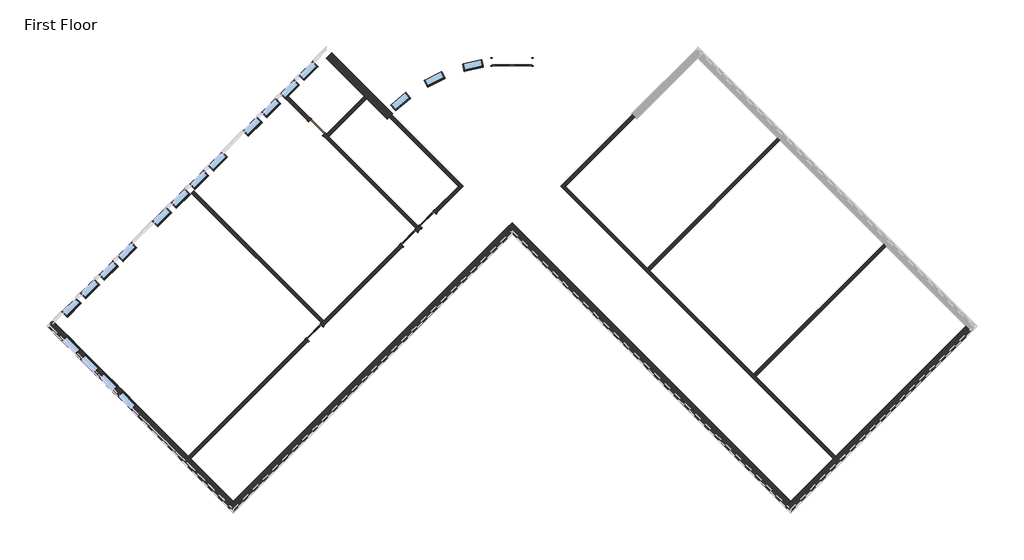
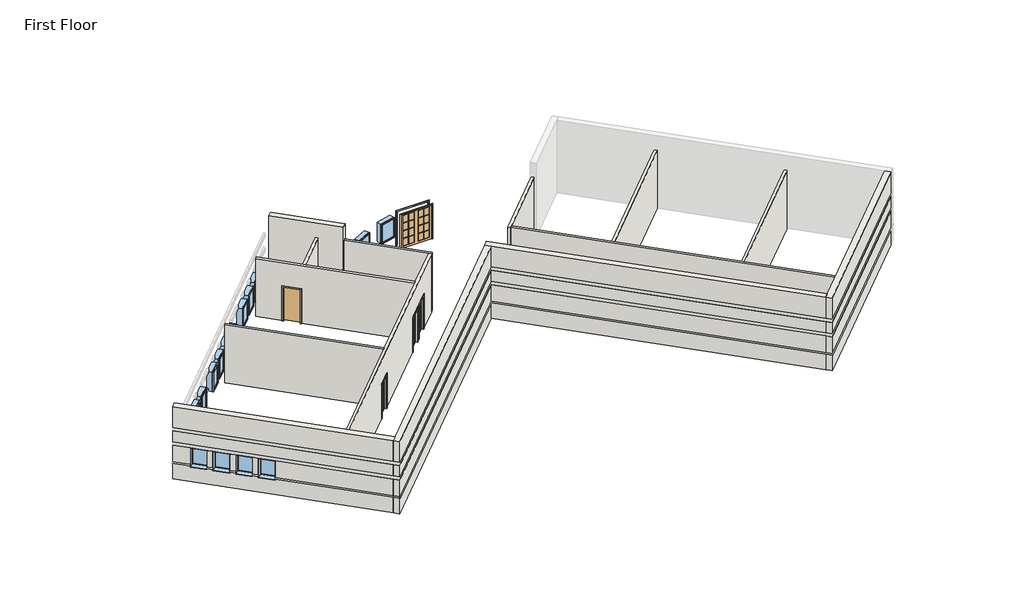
# One storey, part 1 of 2: 19 windows, 14 walls, 5 doors.
"""IFC4 building model written with IfcOpenShell, lengths in millimetres."""

from ifc_helpers import new_model, si_unit, frame, origin, origin_with_axes, place, context, project, spatial, polyline, circle_curve, outline, extrude, faceted_brep, transform, mapped, element, save
from ifc_brep_helpers import plane_surface, cylinder_surface, revolved_surface, advanced_brep
from components import door_0a477ef8, door_f9494b7c, door_b81abb0e, door_5f5b55da, window_15c49d37, window_0e2fc6ce

model = new_model("IFC4")

# Units and contexts
model_context = context("Model", 3, world=origin())
ifc_project = project(units=[si_unit("LENGTHUNIT", "METRE", prefix="MILLI")], contexts=[model_context])

# Site, building, storey
site = spatial("IfcSite", under=ifc_project)
building = spatial("IfcBuilding", under=site)
storey = spatial("IfcBuildingStorey", under=building, Name="First Floor", Elevation=0.0)

# Doors
placement = place(None, origin())
door_shape = door_0a477ef8(model_context)
element("IfcDoor", 1, ObjectType="Double-Glass 2 : 72\" x 84\"", at=placement, inside=storey, context=model_context, shape_type="MappedRepresentation", body=[
    mapped(door_shape, transform((-2868.7603243, 10905.5717204, 0.0), x_axis=(-0.9999999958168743, -9.146721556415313e-05, 0.0), y_axis=(9.146721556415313e-05, -0.9999999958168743, 0.0), z_axis=(0.0, 0.0, 1.0))),
])
door_2_shape = door_f9494b7c(model_context)
element("IfcDoor", 2, ObjectType="Single-Flush : 36\" x 84\"", at=placement, inside=storey, context=model_context, shape_type="MappedRepresentation", body=[
    mapped(door_2_shape, transform((-11920.1265343, 7875.9588464, 0.0), x_axis=(0.7071067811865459, -0.7071067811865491, 0.0), y_axis=(0.7071067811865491, 0.7071067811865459, 0.0), z_axis=(0.0, 0.0, 1.0))),
])
door_3_shape = door_b81abb0e(model_context)
element("IfcDoor", 3, ObjectType="Single-Glass 1 : 36\" x 84\"", at=placement, inside=storey, context=model_context, shape_type="MappedRepresentation", body=[
    mapped(door_3_shape, transform((-12027.7718255, -1647.4849877, 0.0), x_axis=(0.7071067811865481, 0.7071067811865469, 0.0), y_axis=(-0.7071067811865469, 0.7071067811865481, 0.0), z_axis=(0.0, 0.0, 1.0))),
])
element("IfcDoor", 4, ObjectType="Single-Glass 1 : 36\" x 84\"", at=placement, inside=storey, context=model_context, shape_type="MappedRepresentation", body=[
    mapped(door_3_shape, transform((-7643.2795567, 2737.0072811, 0.0), x_axis=(0.7071067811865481, 0.7071067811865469, 0.0), y_axis=(-0.7071067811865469, 0.7071067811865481, 0.0), z_axis=(0.0, 0.0, 1.0))),
])
door_4_shape = door_5f5b55da(model_context)
element("IfcDoor", 5, ObjectType="Single-Glass 1 : 36\" x 84\"", at=placement, inside=storey, context=model_context, shape_type="MappedRepresentation", body=[
    mapped(door_4_shape, transform((-6781.1749691, 3599.1118687, 0.0), x_axis=(-0.7071067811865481, -0.7071067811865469, 0.0), y_axis=(0.7071067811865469, -0.7071067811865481, 0.0), z_axis=(0.0, 0.0, 1.0))),
])

# Walls
element("IfcWall", 6, ObjectType="Exterior - Split Face and CMU on Mtl. Stud", at=placement, inside=storey, context=model_context, shape_type="Brep", body=[
    faceted_brep([(18186.1821115, -1357.9895101, 4572.0), (10063.54045, -9480.6311716, 4572.0), (9814.3383427, -9729.833279, 4572.0), (10063.54045, -9979.0353863, 4572.0), (18435.3842189, -1607.1916175, 4572.0), (18186.1821115, -1357.9895101, 0.0), (12149.2049342, -7394.9666875, 0.0), (12039.1967967, -7504.974825, 0.0), (10063.54045, -9480.6311716, 0.0), (9814.3383427, -9729.833279, 0.0), (9814.3383427, -9729.833279, 1016.0), (9879.4451996, -9664.7264221, 1016.0), (9879.4451996, -9664.7264221, 1085.85), (9814.3383427, -9729.833279, 1085.85), (9814.3383427, -9729.833279, 2133.6), (9879.4451996, -9664.7264221, 2133.6), (9879.4451996, -9664.7264221, 2336.8), (9814.3383427, -9729.833279, 2336.8), (9814.3383427, -9729.833279, 3048.0), (9879.4451996, -9664.7264221, 3048.0), (9879.4451996, -9664.7264221, 3251.2), (9814.3383427, -9729.833279, 3251.2), (10063.54045, -9979.0353863, 3251.2), (18435.3842189, -1607.1916175, 3251.2), (10063.54045, -9979.0353863, 0.0), (18435.3842189, -1607.1916175, 0.0), (18435.3842189, -1607.1916175, 1016.0), (10063.54045, -9979.0353863, 1016.0), (10063.54045, -9979.0353863, 1085.85), (18435.3842189, -1607.1916175, 1085.85), (18435.3842189, -1607.1916175, 2133.6), (10063.54045, -9979.0353863, 2133.6), (10063.54045, -9979.0353863, 2336.8), (18435.3842189, -1607.1916175, 2336.8), (18435.3842189, -1607.1916175, 3048.0), (10063.54045, -9979.0353863, 3048.0), (18370.277362, -1542.0847606, 0.0), (9998.4335932, -9913.9285294, 0.0), (18370.277362, -1542.0847606, 3251.2), (18370.277362, -1542.0847606, 3048.0), (18370.277362, -1542.0847606, 2336.8), (18370.277362, -1542.0847606, 2133.6), (18370.277362, -1542.0847606, 1085.85), (18370.277362, -1542.0847606, 1016.0), (10063.54045, -9848.8216726, 1085.85), (10063.54045, -9848.8216726, 1016.0), (10063.54045, -9848.8216726, 2133.6), (10063.54045, -9848.8216726, 2336.8), (10063.54045, -9848.8216726, 3048.0), (10063.54045, -9848.8216726, 3251.2)], [[[0, 1, 2, 3, 4]], [[5, 6, 7, 8, 9, 10, 11, 12, 13, 14, 15, 16, 17, 18, 19, 20, 21, 2, 1, 0]], [[4, 3, 22, 23]], [[24, 25, 26, 27]], [[28, 29, 30, 31]], [[32, 33, 34, 35]], [[9, 8, 7, 6, 5, 36, 37]], [[5, 0, 4, 23, 38, 39, 34, 33, 40, 41, 30, 29, 42, 43, 26, 25, 36]], [[25, 24, 37, 36]], [[3, 2, 21, 22]], [[9, 37, 24, 27, 10]], [[13, 28, 31, 14]], [[17, 32, 35, 18]], [[12, 44, 42, 29, 28, 13]], [[43, 45, 11, 10, 27, 26]], [[44, 45, 43, 42]], [[45, 44, 12, 11]], [[41, 46, 15, 14, 31, 30]], [[16, 47, 40, 33, 32, 17]], [[47, 46, 41, 40]], [[46, 47, 16, 15]], [[39, 48, 19, 18, 35, 34]], [[20, 49, 38, 23, 22, 21]], [[49, 48, 39, 38]], [[48, 49, 20, 19]]]),
])
element("IfcWall", 7, ObjectType="Exterior - Split Face and CMU on Mtl. Stud", at=placement, inside=storey, context=model_context, shape_type="Brep", body=[
    faceted_brep([(10063.54045, -9480.6311716, 0.0), (-2868.0283643, 3450.9376427, 0.0), (-2868.0283643, 3450.9376427, 4572.0), (10063.54045, -9480.6311716, 4572.0), (9814.3383427, -9729.833279, 4572.0), (-2868.0283643, 2952.533428, 4572.0), (-3117.2304717, 3201.7355354, 4572.0), (-3117.2304717, 3201.7355354, 0.0), (-2868.0283643, 2952.533428, 0.0), (9814.3383427, -9729.833279, 0.0), (9814.3383427, -9729.833279, 1016.0), (-2868.0283643, 2952.533428, 1016.0), (-2933.1352212, 3017.6402849, 1016.0), (-2933.1352212, 3017.6402849, 1085.85), (-2868.0283643, 2952.533428, 1085.85), (9814.3383427, -9729.833279, 1085.85), (9814.3383427, -9729.833279, 2133.6), (-2868.0283643, 2952.533428, 2133.6), (-2933.1352212, 3017.6402849, 2133.6), (-2933.1352212, 3017.6402849, 2336.8), (-2868.0283643, 2952.533428, 2336.8), (9814.3383427, -9729.833279, 2336.8), (9814.3383427, -9729.833279, 3048.0), (-2868.0283643, 2952.533428, 3048.0), (-2933.1352212, 3017.6402849, 3048.0), (-2933.1352212, 3017.6402849, 3251.2), (-2868.0283643, 2952.533428, 3251.2), (9814.3383427, -9729.833279, 3251.2), (-3052.1236148, 3266.8423923, 0.0), (9879.4451996, -9664.7264221, 3251.2), (9879.4451996, -9664.7264221, 3048.0), (9879.4451996, -9664.7264221, 2336.8), (9879.4451996, -9664.7264221, 2133.6), (9879.4451996, -9664.7264221, 1085.85), (9879.4451996, -9664.7264221, 1016.0), (9879.4451996, -9664.7264221, 0.0), (-2868.0283643, 3082.7471418, 1085.85), (-2868.0283643, 3082.7471418, 1016.0), (-2868.0283643, 3082.7471418, 2133.6), (-2868.0283643, 3082.7471418, 2336.8), (-2868.0283643, 3082.7471418, 3048.0), (-2868.0283643, 3082.7471418, 3251.2)], [[[0, 1, 2, 3]], [[4, 5, 6, 7, 8, 9, 10, 11, 12, 13, 14, 15, 16, 17, 18, 19, 20, 21, 22, 23, 24, 25, 26, 27]], [[3, 2, 6, 5, 4]], [[2, 1, 28, 7, 6]], [[0, 3, 4, 27, 29, 30, 22, 21, 31, 32, 16, 15, 33, 34, 10, 9, 35]], [[1, 0, 35, 28]], [[35, 9, 8, 7, 28]], [[13, 36, 33, 15, 14]], [[34, 37, 12, 11, 10]], [[36, 37, 34, 33]], [[37, 36, 13, 12]], [[32, 38, 18, 17, 16]], [[19, 39, 31, 21, 20]], [[39, 38, 32, 31]], [[38, 39, 19, 18]], [[30, 40, 24, 23, 22]], [[25, 41, 29, 27, 26]], [[41, 40, 30, 29]], [[40, 41, 25, 24]]]),
])
element("IfcWall", 8, ObjectType="Exterior - Split Face and CMU on Mtl. Stud", at=placement, inside=storey, context=model_context, shape_type="Brep", body=[
    faceted_brep([(-3117.2304717, 3201.7355354, 4572.0), (-15799.5971786, -9480.6311716, 4572.0), (-16048.799286, -9729.833279, 4572.0), (-15799.5971786, -9979.0353863, 4572.0), (-2868.0283643, 2952.533428, 4572.0), (-3117.2304717, 3201.7355354, 0.0), (-15799.5971786, -9480.6311716, 0.0), (-16048.799286, -9729.833279, 0.0), (-16048.799286, -9729.833279, 1016.0), (-15983.6924291, -9664.7264221, 1016.0), (-15983.6924291, -9664.7264221, 1085.85), (-16048.799286, -9729.833279, 1085.85), (-16048.799286, -9729.833279, 2133.6), (-15983.6924291, -9664.7264221, 2133.6), (-15983.6924291, -9664.7264221, 2336.8), (-16048.799286, -9729.833279, 2336.8), (-16048.799286, -9729.833279, 3048.0), (-15983.6924291, -9664.7264221, 3048.0), (-15983.6924291, -9664.7264221, 3251.2), (-16048.799286, -9729.833279, 3251.2), (-15799.5971786, -9979.0353863, 3251.2), (-2868.0283643, 2952.533428, 3251.2), (-15799.5971786, -9979.0353863, 0.0), (-2868.0283643, 2952.533428, 0.0), (-2868.0283643, 2952.533428, 1016.0), (-15799.5971786, -9979.0353863, 1016.0), (-15799.5971786, -9979.0353863, 1085.85), (-2868.0283643, 2952.533428, 1085.85), (-2868.0283643, 2952.533428, 2133.6), (-15799.5971786, -9979.0353863, 2133.6), (-15799.5971786, -9979.0353863, 2336.8), (-2868.0283643, 2952.533428, 2336.8), (-2868.0283643, 2952.533428, 3048.0), (-15799.5971786, -9979.0353863, 3048.0), (-2933.1352212, 3017.6402849, 0.0), (-15864.7040355, -9913.9285294, 0.0), (-2933.1352212, 3017.6402849, 3251.2), (-2933.1352212, 3017.6402849, 3048.0), (-2933.1352212, 3017.6402849, 2336.8), (-2933.1352212, 3017.6402849, 2133.6), (-2933.1352212, 3017.6402849, 1085.85), (-2933.1352212, 3017.6402849, 1016.0), (-15799.5971786, -9848.8216726, 1085.85), (-15799.5971786, -9848.8216726, 1016.0), (-15799.5971786, -9848.8216726, 2133.6), (-15799.5971786, -9848.8216726, 2336.8), (-15799.5971786, -9848.8216726, 3048.0), (-15799.5971786, -9848.8216726, 3251.2)], [[[0, 1, 2, 3, 4]], [[5, 6, 7, 8, 9, 10, 11, 12, 13, 14, 15, 16, 17, 18, 19, 2, 1, 0]], [[4, 3, 20, 21]], [[22, 23, 24, 25]], [[26, 27, 28, 29]], [[30, 31, 32, 33]], [[7, 6, 5, 34, 35]], [[5, 0, 4, 21, 36, 37, 32, 31, 38, 39, 28, 27, 40, 41, 24, 23, 34]], [[23, 22, 35, 34]], [[3, 2, 19, 20]], [[7, 35, 22, 25, 8]], [[11, 26, 29, 12]], [[15, 30, 33, 16]], [[10, 42, 40, 27, 26, 11]], [[41, 43, 9, 8, 25, 24]], [[42, 43, 41, 40]], [[43, 42, 10, 9]], [[39, 44, 13, 12, 29, 28]], [[14, 45, 38, 31, 30, 15]], [[45, 44, 39, 38]], [[44, 45, 14, 13]], [[37, 46, 17, 16, 33, 32]], [[18, 47, 36, 21, 20, 19]], [[47, 46, 37, 36]], [[46, 47, 18, 17]]]),
])
element("IfcWall", 9, ObjectType="Exterior - Split Face and CMU on Mtl. Stud", at=placement, inside=storey, context=model_context, shape_type="Brep", body=[
    faceted_brep([(-15799.5971786, -9480.6311716, 4572.0), (-23922.2388402, -1357.9895101, 4572.0), (-24171.4409475, -1108.7874027, 4572.0), (-24420.6430549, -1357.9895101, 4572.0), (-16048.799286, -9729.833279, 4572.0), (-15799.5971786, -9480.6311716, 0.0), (-17775.2535253, -7504.974825, 0.0), (-17885.2616628, -7394.9666875, 0.0), (-23922.2388402, -1357.9895101, 0.0), (-24171.4409475, -1108.7874027, 0.0), (-24171.4409475, -1108.7874027, 1016.0), (-24106.3340906, -1173.8942596, 1016.0), (-24106.3340906, -1173.8942596, 1085.85), (-24171.4409475, -1108.7874027, 1085.85), (-24171.4409475, -1108.7874027, 2133.6), (-24106.3340906, -1173.8942596, 2133.6), (-24106.3340906, -1173.8942596, 2336.8), (-24171.4409475, -1108.7874027, 2336.8), (-24171.4409475, -1108.7874027, 3048.0), (-24106.3340906, -1173.8942596, 3048.0), (-24106.3340906, -1173.8942596, 3251.2), (-24171.4409475, -1108.7874027, 3251.2), (-20921.7107637, -4358.5175865, 2133.6), (-20921.7107637, -4358.5175865, 914.4), (-20275.132323, -5005.0960273, 914.4), (-20275.132323, -5005.0960273, 2133.6), (-21783.8153513, -3496.4129989, 2133.6), (-21783.8153513, -3496.4129989, 914.4), (-21137.2369106, -4142.9914396, 914.4), (-21137.2369106, -4142.9914396, 2133.6), (-22645.9199389, -2634.3084113, 2133.6), (-22645.9199389, -2634.3084113, 914.4), (-21999.3414982, -3280.886852, 914.4), (-21999.3414982, -3280.886852, 2133.6), (-23508.0245266, -1772.2038237, 2133.6), (-23508.0245266, -1772.2038237, 914.4), (-22861.4460859, -2418.7822644, 914.4), (-22861.4460859, -2418.7822644, 2133.6), (-24420.6430549, -1357.9895101, 3251.2), (-16048.799286, -9729.833279, 3251.2), (-24420.6430549, -1357.9895101, 0.0), (-16048.799286, -9729.833279, 0.0), (-16048.799286, -9729.833279, 1016.0), (-20524.3344303, -5254.2981346, 1016.0), (-20524.3344303, -5254.2981346, 914.4), (-21170.9128711, -4607.7196939, 914.4), (-21170.9128711, -4607.7196939, 1016.0), (-21386.439018, -4392.193547, 1016.0), (-21386.439018, -4392.193547, 914.4), (-22033.0174587, -3745.6151063, 914.4), (-22033.0174587, -3745.6151063, 1016.0), (-22248.5436056, -3530.0889594, 1016.0), (-22248.5436056, -3530.0889594, 914.4), (-22895.1220463, -2883.5105187, 914.4), (-22895.1220463, -2883.5105187, 1016.0), (-23110.6481932, -2667.9843718, 1016.0), (-23110.6481932, -2667.9843718, 914.4), (-23757.2266339, -2021.405931, 914.4), (-23757.2266339, -2021.405931, 1016.0), (-24420.6430549, -1357.9895101, 1016.0), (-20524.3344303, -5254.2981346, 2133.6), (-20524.3344303, -5254.2981346, 1085.85), (-16048.799286, -9729.833279, 1085.85), (-16048.799286, -9729.833279, 2133.6), (-21170.9128711, -4607.7196939, 1085.85), (-21170.9128711, -4607.7196939, 2133.6), (-21386.439018, -4392.193547, 2133.6), (-21386.439018, -4392.193547, 1085.85), (-22033.0174587, -3745.6151063, 1085.85), (-22033.0174587, -3745.6151063, 2133.6), (-22248.5436056, -3530.0889594, 2133.6), (-22248.5436056, -3530.0889594, 1085.85), (-22895.1220463, -2883.5105187, 1085.85), (-22895.1220463, -2883.5105187, 2133.6), (-23110.6481932, -2667.9843718, 2133.6), (-23110.6481932, -2667.9843718, 1085.85), (-23757.2266339, -2021.405931, 1085.85), (-23757.2266339, -2021.405931, 2133.6), (-24420.6430549, -1357.9895101, 2133.6), (-24420.6430549, -1357.9895101, 1085.85), (-24420.6430549, -1357.9895101, 2336.8), (-16048.799286, -9729.833279, 2336.8), (-16048.799286, -9729.833279, 3048.0), (-24420.6430549, -1357.9895101, 3048.0), (-15983.6924291, -9664.7264221, 0.0), (-24355.536198, -1292.8826532, 0.0), (-15983.6924291, -9664.7264221, 3251.2), (-15983.6924291, -9664.7264221, 3048.0), (-15983.6924291, -9664.7264221, 2336.8), (-15983.6924291, -9664.7264221, 2133.6), (-15983.6924291, -9664.7264221, 1085.85), (-15983.6924291, -9664.7264221, 1016.0), (-21105.8060142, -4542.612837, 2133.6), (-21105.8060142, -4542.612837, 1085.85), (-21105.8060142, -4542.612837, 1016.0), (-20459.2275735, -5189.1912777, 1016.0), (-20459.2275735, -5189.1912777, 1085.85), (-20459.2275735, -5189.1912777, 2133.6), (-21967.9106018, -3680.5082494, 2133.6), (-21967.9106018, -3680.5082494, 1085.85), (-21967.9106018, -3680.5082494, 1016.0), (-21321.3321611, -4327.0866901, 1016.0), (-21321.3321611, -4327.0866901, 1085.85), (-21321.3321611, -4327.0866901, 2133.6), (-22830.0151894, -2818.4036618, 2133.6), (-22830.0151894, -2818.4036618, 1085.85), (-22830.0151894, -2818.4036618, 1016.0), (-22183.4367487, -3464.9821025, 1016.0), (-22183.4367487, -3464.9821025, 1085.85), (-22183.4367487, -3464.9821025, 2133.6), (-23692.119777, -1956.2990742, 2133.6), (-23692.119777, -1956.2990742, 1085.85), (-23692.119777, -1956.2990742, 1016.0), (-23045.5413363, -2602.8775149, 1016.0), (-23045.5413363, -2602.8775149, 1085.85), (-23045.5413363, -2602.8775149, 2133.6), (-24290.4293411, -1357.9895101, 1085.85), (-24290.4293411, -1357.9895101, 1016.0), (-24290.4293411, -1357.9895101, 2133.6), (-24290.4293411, -1357.9895101, 2336.8), (-24290.4293411, -1357.9895101, 3048.0), (-24290.4293411, -1357.9895101, 3251.2)], [[[0, 1, 2, 3, 4]], [[5, 6, 7, 8, 9, 10, 11, 12, 13, 14, 15, 16, 17, 18, 19, 20, 21, 2, 1, 0], [22, 23, 24, 25], [26, 27, 28, 29], [30, 31, 32, 33], [34, 35, 36, 37]], [[4, 3, 38, 39]], [[40, 41, 42, 43, 44, 45, 46, 47, 48, 49, 50, 51, 52, 53, 54, 55, 56, 57, 58, 59]], [[60, 61, 62, 63]], [[64, 65, 66, 67]], [[68, 69, 70, 71]], [[72, 73, 74, 75]], [[76, 77, 78, 79]], [[80, 81, 82, 83]], [[9, 8, 7, 6, 5, 84, 85]], [[5, 0, 4, 39, 86, 87, 82, 81, 88, 89, 63, 62, 90, 91, 42, 41, 84]], [[41, 40, 85, 84]], [[3, 2, 21, 38]], [[9, 85, 40, 59, 10]], [[13, 79, 78, 14]], [[17, 80, 83, 18]], [[23, 22, 92, 65, 64, 93, 94, 46, 45]], [[24, 23, 45, 44]], [[25, 24, 44, 43, 95, 96, 61, 60, 97]], [[22, 25, 97, 92]], [[27, 26, 98, 69, 68, 99, 100, 50, 49]], [[28, 27, 49, 48]], [[29, 28, 48, 47, 101, 102, 67, 66, 103]], [[26, 29, 103, 98]], [[31, 30, 104, 73, 72, 105, 106, 54, 53]], [[32, 31, 53, 52]], [[33, 32, 52, 51, 107, 108, 71, 70, 109]], [[30, 33, 109, 104]], [[35, 34, 110, 77, 76, 111, 112, 58, 57]], [[36, 35, 57, 56]], [[37, 36, 56, 55, 113, 114, 75, 74, 115]], [[34, 37, 115, 110]], [[96, 90, 62, 61]], [[91, 95, 43, 42]], [[90, 96, 95, 91]], [[102, 93, 64, 67]], [[94, 101, 47, 46]], [[93, 102, 101, 94]], [[108, 99, 68, 71]], [[100, 107, 51, 50]], [[99, 108, 107, 100]], [[114, 105, 72, 75]], [[106, 113, 55, 54]], [[105, 114, 113, 106]], [[116, 111, 76, 79, 13, 12]], [[112, 117, 11, 10, 59, 58]], [[111, 116, 117, 112]], [[117, 116, 12, 11]], [[92, 103, 66, 65]], [[98, 109, 70, 69]], [[110, 118, 15, 14, 78, 77]], [[104, 115, 74, 73]], [[89, 97, 60, 63]], [[16, 119, 88, 81, 80, 17]], [[119, 118, 110, 115, 104, 109, 98, 103, 92, 97, 89, 88]], [[118, 119, 16, 15]], [[87, 120, 19, 18, 83, 82]], [[20, 121, 86, 39, 38, 21]], [[121, 120, 87, 86]], [[120, 121, 20, 19]]]),
])
element("IfcWall", 10, ObjectType="Exterior - Split Face and CMU on Mtl. Stud", at=placement, inside=storey, context=model_context, shape_type="AdvancedBrep", body=[
    advanced_brep(
    [(-11489.0742405, 11075.1750895, 0.0), (-9728.9440408, 9315.0448898, 0.0), (-9618.9359033, 9205.0367523, 0.0), (-8658.0122729, 8244.1131219, 0.0), (-8658.0122729, 8244.1131219, 4572.0), (-11489.0742405, 11075.1750895, 4572.0), (-11239.8721332, 11324.3771969, 4572.0), (-8662.486224, 8746.9912878, 4572.0), (-8413.2817722, 8497.7868359, 4572.0), (-8413.2817722, 8497.7868359, 0.0), (-8662.486224, 8746.9912878, 0.0), (-11239.8721332, 11324.3771969, 0.0), (-11239.8721332, 11324.3771969, 1016.0), (-8662.486224, 8746.9912878, 1016.0), (-8597.3787742, 8681.8838379, 1016.0), (-8597.3787742, 8681.8838379, 1085.85), (-8662.486224, 8746.9912878, 1085.85), (-11239.8721332, 11324.3771969, 1085.85), (-11239.8721332, 11324.3771969, 2133.6), (-8662.486224, 8746.9912878, 2133.6), (-8597.3787742, 8681.8838379, 2133.6), (-8597.3787742, 8681.8838379, 2336.8), (-8662.486224, 8746.9912878, 2336.8), (-11239.8721332, 11324.3771969, 2336.8), (-11239.8721332, 11324.3771969, 3048.0), (-8662.486224, 8746.9912878, 3048.0), (-8597.3787742, 8681.8838379, 3048.0), (-8597.3787742, 8681.8838379, 3251.2), (-8662.486224, 8746.9912878, 3251.2), (-11239.8721332, 11324.3771969, 3251.2), (-8557.713594, 8350.8358404, 0.0), (-8478.2967797, 8432.5881297, 0.0), (-8449.0111375, 8462.1452813, 0.0), (-11304.9789901, 11259.27034, 3251.2), (-11304.9789901, 11259.27034, 3048.0), (-11304.9789901, 11259.27034, 2336.8), (-11304.9789901, 11259.27034, 2133.6), (-11304.9789901, 11259.27034, 1085.85), (-11304.9789901, 11259.27034, 1016.0), (-11304.9789901, 11259.27034, 0.0), (-8662.3967205, 8616.6880705, 1085.85), (-8662.3967205, 8616.6880705, 1016.0), (-8662.3967205, 8616.6880705, 2336.8), (-8662.3967205, 8616.6880705, 2133.6), (-8662.3967205, 8616.6880705, 3251.2), (-8662.3967205, 8616.6880705, 3048.0)],
    [
        (0, 1),
        (1, 2),
        (2, 3),
        (3, 4),
        (4, 5),
        (5, 0),
        (6, 7),
        (7, 8),
        (8, 9),
        (9, 10),
        (10, 11),
        (11, 12),
        (12, 13),
        (13, 14),
        (14, 15),
        (15, 16),
        (16, 17),
        (17, 18),
        (18, 19),
        (19, 20),
        (20, 21),
        (21, 22),
        (22, 23),
        (23, 24),
        (24, 25),
        (25, 26),
        (26, 27),
        (27, 28),
        (28, 29),
        (29, 6),
        (4, 8, circle_curve(frame((-2868.0283643, 2903.1420194, 4572.0), z_axis=(0.0, 0.0, -1.0), x_axis=(1.0, 0.0, 0.0)), 7877.175)),
        (6, 5),
        (3, 30, circle_curve(frame((-2868.0283643, 2903.1420194, 0.0), z_axis=(0.0, 0.0, -1.0), x_axis=(1.0, 0.0, 0.0)), 7877.175)),
        (30, 31, circle_curve(frame((-2868.0283643, 2903.1420194, 0.0), z_axis=(0.0, 0.0, -1.0), x_axis=(1.0, 0.0, 0.0)), 7877.175)),
        (31, 32, circle_curve(frame((-2868.0283643, 2903.1420194, 0.0), z_axis=(0.0, 0.0, -1.0), x_axis=(1.0, 0.0, 0.0)), 7877.175)),
        (32, 9, circle_curve(frame((-2868.0283643, 2903.1420194, 0.0), z_axis=(0.0, 0.0, -1.0), x_axis=(1.0, 0.0, 0.0)), 7877.175)),
        (29, 33),
        (33, 34),
        (34, 24),
        (23, 35),
        (35, 36),
        (36, 18),
        (17, 37),
        (37, 38),
        (38, 12),
        (11, 39),
        (39, 0),
        (39, 31),
        (40, 41),
        (41, 38),
        (37, 40),
        (15, 40, circle_curve(frame((-2868.0283643, 2903.1420194, 1085.85), z_axis=(0.0, 0.0, 1.0), x_axis=(-0.7040995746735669, 0.7101012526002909, 0.0)), 8137.525)),
        (41, 14, circle_curve(frame((-2868.0283643, 2903.1420194, 1016.0), z_axis=(0.0, 0.0, -1.0), x_axis=(-0.7040995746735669, 0.7101012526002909, 0.0)), 8137.525)),
        (42, 43),
        (43, 36),
        (35, 42),
        (43, 20, circle_curve(frame((-2868.0283643, 2903.1420194, 2133.6), z_axis=(0.0, 0.0, -1.0), x_axis=(-0.7120553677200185, 0.70212331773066, 0.0)), 8137.525)),
        (42, 21, circle_curve(frame((-2868.0283643, 2903.1420194, 2336.8), z_axis=(0.0, 0.0, -1.0), x_axis=(-0.7120553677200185, 0.70212331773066, 0.0)), 8137.525)),
        (44, 45),
        (45, 34),
        (33, 44),
        (45, 26, circle_curve(frame((-2868.0283643, 2903.1420194, 3048.0), z_axis=(0.0, 0.0, -1.0), x_axis=(-0.7120553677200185, 0.70212331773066, 0.0)), 8137.525)),
        (44, 27, circle_curve(frame((-2868.0283643, 2903.1420194, 3251.2), z_axis=(0.0, 0.0, -1.0), x_axis=(-0.7120553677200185, 0.70212331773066, 0.0)), 8137.525)),
    ],
    [
        plane_surface(frame((-11738.2763479, 11324.3771969, 0.0), z_axis=(-0.7071067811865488, -0.7071067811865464, 0.0), x_axis=(0.7071067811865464, -0.7071067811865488, 0.0))),
        plane_surface(frame((-11489.0742405, 11573.5793042, 0.0), z_axis=(0.7071067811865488, 0.7071067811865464, 0.0), x_axis=(-0.7071067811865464, 0.7071067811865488, 0.0))),
        plane_surface(frame((-8786.2632499, 8372.3640989, 4572.0), z_axis=(0.0, 0.0, 1.0), x_axis=(0.7071067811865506, 0.7071067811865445, 0.0))),
        revolved_surface(polyline([(5009.146635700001, 2903.1420194, 0.0), (5009.146635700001, 2903.1420194, 4572.0)]), (-2868.0283643, 2903.1420194, 0.0), (0.0, 0.0, -1.0)),
        plane_surface(frame((-24171.4409475, -1607.1916175, 0.0), z_axis=(-0.7071067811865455, 0.7071067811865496, 0.0), x_axis=(0.7071067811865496, 0.7071067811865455, 0.0))),
        plane_surface(frame((-11613.6752942, 11199.7761432, 0.0), z_axis=(0.0, 0.0, -1.0000000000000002), x_axis=(0.7071067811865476, 0.7071067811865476, 0.0))),
        plane_surface(frame((0.0, 0.0, 0.0), z_axis=(0.0, 0.0, -1.0), x_axis=(1.0, 0.0, 0.0))),
        plane_surface(frame((-11489.0742405, 11443.3655905, 1016.0), z_axis=(0.7071067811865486, 0.7071067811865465, 0.0), x_axis=(0.7071067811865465, -0.7071067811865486, 0.0))),
        plane_surface(frame((-2868.0283643, 2903.1420194, 1085.85), z_axis=(0.0, 0.0, -1.0), x_axis=(-0.7040995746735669, 0.7101012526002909, 0.0))),
        plane_surface(frame((-2868.0283643, 2903.1420194, 1016.0), z_axis=(0.0, 0.0, 1.0), x_axis=(-0.7040995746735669, 0.7101012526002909, 0.0))),
        cylinder_surface(frame((-2868.0283643, 2903.1420194, 1016.0), z_axis=(0.0, 0.0, -1.0), x_axis=(-0.7040995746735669, 0.7101012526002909, 0.0)), 8137.525),
        plane_surface(frame((-11489.0742405, 11443.3655905, 2133.6), z_axis=(0.7071067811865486, 0.7071067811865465, 0.0), x_axis=(0.7071067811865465, -0.7071067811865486, 0.0))),
        plane_surface(frame((-2868.0283643, 2903.1420194, 2133.6), z_axis=(0.0, 0.0, 1.0), x_axis=(-0.7120553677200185, 0.70212331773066, 0.0))),
        cylinder_surface(frame((-2868.0283643, 2903.1420194, 2133.6), z_axis=(0.0, 0.0, -1.0), x_axis=(-0.7120553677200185, 0.70212331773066, 0.0)), 8137.525),
        plane_surface(frame((-2868.0283643, 2903.1420194, 2336.8), z_axis=(0.0, 0.0, -1.0), x_axis=(-0.7120553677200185, 0.70212331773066, 0.0))),
        plane_surface(frame((-11489.0742405, 11443.3655905, 3048.0), z_axis=(0.7071067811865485, 0.7071067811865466, 0.0), x_axis=(0.7071067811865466, -0.7071067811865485, 0.0))),
        plane_surface(frame((-2868.0283643, 2903.1420194, 3048.0), z_axis=(0.0, 0.0, 1.0), x_axis=(-0.7120553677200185, 0.70212331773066, 0.0))),
        cylinder_surface(frame((-2868.0283643, 2903.1420194, 3048.0), z_axis=(0.0, 0.0, -1.0), x_axis=(-0.7120553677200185, 0.70212331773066, 0.0)), 8137.525),
        plane_surface(frame((-2868.0283643, 2903.1420194, 3251.2), z_axis=(0.0, 0.0, -1.0), x_axis=(-0.7120553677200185, 0.70212331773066, 0.0))),
    ],
    [
        (0, [[1, 2, 3, 4, 5, 6]]),
        (1, [[7, 8, 9, 10, 11, 12, 13, 14, 15, 16, 17, 18, 19, 20, 21, 22, 23, 24, 25, 26, 27, 28, 29, 30]]),
        (2, [[-5, 31, -8, -7, 32]]),
        (3, [[-31, -4, 33, 34, 35, 36, -9]]),
        (4, [[-6, -32, -30, 37, 38, 39, -24, 40, 41, 42, -18, 43, 44, 45, -12, 46, 47]]),
        (5, [[-3, -2, -1, -47, 48, -34, -33]]),
        (6, [[-46, -11, -10, -36, -35, -48]]),
        (7, [[49, 50, -44, 51]]),
        (8, [[52, -51, -43, -17, -16]]),
        (9, [[-50, 53, -14, -13, -45]]),
        (10, [[-49, -52, -15, -53]]),
        (11, [[54, 55, -41, 56]]),
        (12, [[-55, 57, -20, -19, -42]]),
        (13, [[-54, 58, -21, -57]]),
        (14, [[-58, -56, -40, -23, -22]]),
        (15, [[59, 60, -38, 61]]),
        (16, [[-60, 62, -26, -25, -39]]),
        (17, [[-59, 63, -27, -62]]),
        (18, [[-63, -61, -37, -29, -28]]),
    ],
),
])
element("IfcWall", 11, ObjectType="Interior - 6 1/8\" Partition (2-hr)", at=placement, inside=storey, context=model_context, shape_type="Brep", body=[
    faceted_brep([(-7374.9944051, 3115.3005702, 0.0), (-7322.2354004, 3168.0595749, 0.0), (-7212.2272629, 3278.0677124, 0.0), (-7159.4682582, 3330.8267171, 0.0), (-7049.4601207, 3220.8185796, 0.0), (-7264.9862676, 3005.2924327, 0.0), (-12296.0569771, -2025.7782768, 0.0), (-17775.2535253, -7504.974825, 0.0), (-17885.2616628, -7394.9666875, 0.0), (-12406.0651146, -1915.7701393, 0.0), (-7911.5647083, 2358.713992, 0.0), (-11649.4785364, -1379.1998361, 0.0), (-11759.4866739, -1269.1916986, 0.0), (-11706.7276692, -1216.4326939, 0.0), (-11596.7195317, -1106.4245564, 0.0), (-8021.5728458, 2468.7221295, 0.0), (-6512.8898174, 3977.4051578, 0.0), (-5348.5885532, 5141.7064221, 0.0), (-5238.5804157, 5031.6982846, 0.0), (-6402.88168, 3867.3970204, 0.0), (-17775.2535253, -7504.974825, 3657.6), (-5238.5804157, 5031.6982846, 3657.6), (-5348.5885532, 5141.7064221, 3657.6), (-7212.2272629, 3278.0677124, 3657.6), (-7322.2354004, 3168.0595749, 3657.6), (-11596.7195317, -1106.4245564, 3657.6), (-11706.7276692, -1216.4326939, 3657.6), (-17885.2616628, -7394.9666875, 3657.6), (-7049.4601207, 3220.8185796, 2133.6), (-6402.88168, 3867.3970204, 2133.6), (-12296.0569771, -2025.7782768, 2133.6), (-11649.4785364, -1379.1998361, 2133.6), (-7911.5647083, 2358.713992, 2133.6), (-7264.9862676, 3005.2924327, 2133.6), (-7159.4682582, 3330.8267171, 2133.6), (-7374.9944051, 3115.3005702, 2133.6), (-8021.5728458, 2468.7221295, 2133.6), (-11759.4866739, -1269.1916986, 2133.6), (-12406.0651146, -1915.7701393, 2133.6), (-6512.8898174, 3977.4051578, 2133.6)], [[[0, 1, 2, 3, 4, 5]], [[6, 7, 8, 9]], [[10, 11, 12, 13, 14, 15]], [[16, 17, 18, 19]], [[20, 21, 22, 23, 24, 25, 26, 27]], [[5, 4, 28, 29, 19, 18, 21, 20, 7, 6, 30, 31, 11, 10, 32, 33]], [[34, 3, 2, 1, 0, 35, 36, 15, 14, 13, 12, 37, 38, 9, 8, 27, 26, 25, 24, 23, 22, 17, 16, 39]], [[7, 20, 27, 8]], [[21, 18, 17, 22]], [[37, 12, 11, 31]], [[38, 37, 31, 30]], [[9, 38, 30, 6]], [[35, 0, 5, 33]], [[36, 35, 33, 32]], [[15, 36, 32, 10]], [[28, 4, 3, 34]], [[29, 28, 34, 39]], [[19, 29, 39, 16]]]),
])
element("IfcWall", 12, ObjectType="Interior - 6 1/8\" Partition (2-hr)", at=placement, inside=storey, context=model_context, shape_type="Brep", body=[
    faceted_brep([(-7322.2354004, 3168.0595749, 0.0), (-11651.8413827, 7497.6655573, 0.0), (-11541.8332452, 7607.6736948, 0.0), (-11489.0742405, 7554.9146901, 0.0), (-11379.066103, 7444.9065526, 0.0), (-7212.2272629, 3278.0677124, 0.0), (-12298.4198234, 8144.243998, 0.0), (-13359.2125777, 9205.0367523, 0.0), (-13249.2044403, 9315.0448898, 0.0), (-12188.411686, 8254.2521355, 0.0), (-7212.2272629, 3278.0677124, 3657.6), (-11379.066103, 7444.9065526, 3657.6), (-11489.0742405, 7554.9146901, 3657.6), (-13249.2044403, 9315.0448898, 3657.6), (-13359.2125777, 9205.0367523, 3657.6), (-7322.2354004, 3168.0595749, 3657.6), (-11541.8332452, 7607.6736948, 2133.6), (-12188.411686, 8254.2521355, 2133.6), (-11651.8413827, 7497.6655573, 2133.6), (-12298.4198234, 8144.243998, 2133.6)], [[[0, 1, 2, 3, 4, 5]], [[6, 7, 8, 9]], [[10, 11, 12, 13, 14, 15]], [[5, 4, 3, 2, 16, 17, 9, 8, 13, 12, 11, 10]], [[18, 1, 0, 15, 14, 7, 6, 19]], [[13, 8, 7, 14]], [[5, 10, 15, 0]], [[16, 2, 1, 18]], [[17, 16, 18, 19]], [[9, 17, 19, 6]]]),
])
element("IfcWall", 13, ObjectType="Interior - 6 1/8\" Partition (2-hr)", at=placement, inside=storey, context=model_context, shape_type="AdvancedBrep", body=[
    advanced_brep(
    [(-5128.5722782, 5141.7064221, 0.0), (-8449.0111375, 8462.1452813, 0.0), (-8449.0111375, 8462.1452813, 3657.6), (-5128.5722782, 5141.7064221, 3657.6), (-5238.5804157, 5031.6982846, 0.0), (-5238.5804157, 5031.6982846, 3657.6), (-5348.5885532, 5141.7064221, 3657.6), (-8557.7157352, 8350.8336041, 3657.6), (-8557.7157352, 8350.8336041, 0.0), (-5348.5885532, 5141.7064221, 0.0)],
    [
        (0, 1),
        (1, 2),
        (2, 3),
        (3, 0),
        (4, 5),
        (5, 6),
        (6, 7),
        (7, 8),
        (8, 9),
        (9, 4),
        (0, 4),
        (8, 1, circle_curve(frame((-2868.0283643, 2903.1420194, 0.0), z_axis=(0.0, 0.0, -1.0), x_axis=(1.0, 0.0, 0.0)), 7877.175)),
        (2, 7, circle_curve(frame((-2868.0283643, 2903.1420194, 3657.6), z_axis=(0.0, 0.0, 1.0), x_axis=(1.0, 0.0, 0.0)), 7877.175)),
        (5, 3),
    ],
    [
        plane_surface(frame((-5183.576347, 5196.7104908, 0.0), z_axis=(0.7071067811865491, 0.7071067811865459, 0.0), x_axis=(-0.7071067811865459, 0.7071067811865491, 0.0))),
        plane_surface(frame((-5293.5844845, 5086.7023533, 0.0), z_axis=(-0.7071067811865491, -0.7071067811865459, 0.0), x_axis=(0.7071067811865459, -0.7071067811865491, 0.0))),
        plane_surface(frame((-5183.576347, 5196.7104908, 0.0), z_axis=(0.0, 0.0, -1.0), x_axis=(-0.707106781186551, -0.7071067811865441, 0.0))),
        plane_surface(frame((-8573.2406241, 8586.374768, 3657.6), z_axis=(0.0, 0.0, 1.0), x_axis=(-0.707106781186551, -0.7071067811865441, 0.0))),
        plane_surface(frame((-17899.854579, -7629.5758786, 0.0), z_axis=(0.7071067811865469, -0.7071067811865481, 0.0), x_axis=(0.7071067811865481, 0.7071067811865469, 0.0))),
        cylinder_surface(frame((-2868.0283643, 2903.1420194, 0.0), z_axis=(0.0, 0.0, -1.0), x_axis=(1.0, 0.0, 0.0)), 7877.175),
    ],
    [
        (0, [[1, 2, 3, 4]]),
        (1, [[5, 6, 7, 8, 9, 10]]),
        (2, [[-1, 11, -10, -9, 12]]),
        (3, [[-3, 13, -7, -6, 14]]),
        (4, [[-4, -14, -5, -11]]),
        (5, [[-2, -12, -8, -13]]),
    ],
),
])
element("IfcWall", 14, ObjectType="Interior - 6 1/8\" Partition (2-hr)", at=placement, inside=storey, context=model_context, shape_type="SweptSolid", body=[
    extrude(outline(polyline([(-11489.0742405, 7554.9146901), (-9728.9440408, 9315.0448898), (-9618.9359033, 9205.0367523), (-11379.066103, 7444.9065526), (-11489.0742405, 7554.9146901)])), origin_with_axes(), (0.0, 0.0, 1.0), 3657.6),
])
element("IfcWall", 15, ObjectType="Interior - 6 1/8\" Partition (2-hr)", at=placement, inside=storey, context=model_context, shape_type="SweptSolid", body=[
    extrude(outline(polyline([(-17633.6967091, 4930.552621), (-11596.7195317, -1106.4245564), (-11706.7276692, -1216.4326939), (-17743.7048466, 4820.5444835), (-17633.6967091, 4930.552621)])), origin_with_axes(), (0.0, 0.0, 1.0), 3657.6),
])
element("IfcWall", 16, ObjectType="Interior - 6 1/8\" Partition (2-hr)", at=placement, inside=storey, context=model_context, shape_type="Brep", body=[
    faceted_brep([(-387.4681754, 5141.7064221, 0.0), (3415.9058564, 1338.3323903, 0.0), (3525.9139939, 1228.3242528, 0.0), (8339.3312748, -3585.0930281, 0.0), (8449.3394123, -3695.1011656, 0.0), (12149.2049342, -7394.9666875, 0.0), (12039.1967967, -7504.974825, 0.0), (-497.4763129, 5031.6982846, 0.0), (12149.2049342, -7394.9666875, 3657.6), (8449.3394123, -3695.1011656, 3657.6), (8339.3312748, -3585.0930281, 3657.6), (3525.9139939, 1228.3242528, 3657.6), (3415.9058564, 1338.3323903, 3657.6), (-387.4681754, 5141.7064221, 3657.6), (-497.4763129, 5031.6982846, 3657.6), (12039.1967967, -7504.974825, 3657.6)], [[[0, 1, 2, 3, 4, 5, 6, 7]], [[8, 9, 10, 11, 12, 13, 14, 15]], [[5, 4, 3, 2, 1, 0, 13, 12, 11, 10, 9, 8]], [[6, 15, 14, 7]], [[13, 0, 7, 14]], [[5, 8, 15, 6]]]),
])
element("IfcWall", 17, ObjectType="Interior - 6 1/8\" Partition (2-hr)", at=placement, inside=storey, context=model_context, shape_type="AdvancedBrep", body=[
    advanced_brep(
    [(-497.4763129, 5031.6982846, 0.0), (-387.4681754, 5141.7064221, 0.0), (2821.6590066, 8350.8336041, 0.0), (2821.6590066, 8350.8336041, 3657.6), (-387.4681754, 5141.7064221, 3657.6), (-497.4763129, 5031.6982846, 3657.6), (-607.4844504, 5141.7064221, 0.0), (-607.4844504, 5141.7064221, 3657.6), (2712.9544089, 8462.1452813, 3657.6), (2712.9544089, 8462.1452813, 0.0)],
    [
        (0, 1),
        (1, 2),
        (2, 3),
        (3, 4),
        (4, 5),
        (5, 0),
        (6, 7),
        (7, 8),
        (8, 9),
        (9, 6),
        (0, 6),
        (9, 2, circle_curve(frame((-2868.0283643, 2903.1420194, 0.0), z_axis=(0.0, 0.0, -1.0), x_axis=(1.0, 0.0, 0.0)), 7877.175)),
        (3, 8, circle_curve(frame((-2868.0283643, 2903.1420194, 3657.6), z_axis=(0.0, 0.0, 1.0), x_axis=(1.0, 0.0, 0.0)), 7877.175)),
        (7, 5),
    ],
    [
        plane_surface(frame((-442.4722441, 5086.7023533, 0.0), z_axis=(0.7071067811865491, -0.7071067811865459, 0.0), x_axis=(0.7071067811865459, 0.7071067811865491, 0.0))),
        plane_surface(frame((-552.4803816, 5196.7104908, 0.0), z_axis=(-0.7071067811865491, 0.7071067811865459, 0.0), x_axis=(-0.7071067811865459, -0.7071067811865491, 0.0))),
        plane_surface(frame((-442.4722441, 5086.7023533, 0.0), z_axis=(0.0, 0.0, -1.0), x_axis=(-0.707106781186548, 0.7071067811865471, 0.0))),
        plane_surface(frame((2947.192033, 8476.3666305, 3657.6), z_axis=(0.0, 0.0, 1.0000000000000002), x_axis=(-0.7071067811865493, 0.7071067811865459, 0.0))),
        plane_surface(frame((12163.7978503, -7629.5758786, 0.0), z_axis=(-0.7071067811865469, -0.7071067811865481, 0.0), x_axis=(0.7071067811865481, -0.7071067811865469, 0.0))),
        cylinder_surface(frame((-2868.0283643, 2903.1420194, 0.0), z_axis=(0.0, 0.0, -1.0), x_axis=(1.0, 0.0, 0.0)), 7877.175),
    ],
    [
        (0, [[1, 2, 3, 4, 5, 6]]),
        (1, [[7, 8, 9, 10]]),
        (2, [[-2, -1, 11, -10, 12]]),
        (3, [[-5, -4, 13, -8, 14]]),
        (4, [[-6, -14, -7, -11]]),
        (5, [[-3, -12, -9, -13]]),
    ],
),
])
element("IfcWall", 18, ObjectType="Interior - 6 1/8\" Partition (2-hr)", at=placement, inside=storey, context=model_context, shape_type="SweptSolid", body=[
    extrude(outline(polyline([(3415.9058564, 1338.3323903), (9452.8830338, 7375.3095676), (9562.8911713, 7265.3014302), (3525.9139939, 1228.3242528), (3415.9058564, 1338.3323903)])), origin_with_axes(), (0.0, 0.0, 1.0), 3657.6),
])
element("IfcWall", 19, ObjectType="Interior - 6 1/8\" Partition (2-hr)", at=placement, inside=storey, context=model_context, shape_type="SweptSolid", body=[
    extrude(outline(polyline([(8339.3312748, -3585.0930281), (14376.3084522, 2451.8841493), (14486.3165897, 2341.8760118), (8449.3394123, -3695.1011656), (8339.3312748, -3585.0930281)])), origin_with_axes(), (0.0, 0.0, 1.0), 3657.6),
])

# Windows
window_shape = window_15c49d37(model_context)
element("IfcWindow", 20, ObjectType="Fixed : 36\" x 48\"", at=placement, inside=storey, context=model_context, shape_type="MappedRepresentation", body=[
    mapped(window_shape, transform((-23336.2771283, -522.8256908, 0.0), x_axis=(-0.7071067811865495, -0.7071067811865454, 0.0), y_axis=(0.7071067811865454, -0.7071067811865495, 0.0), z_axis=(0.0, 0.0, 1.0))),
])
element("IfcWindow", 21, ObjectType="Fixed : 36\" x 48\"", at=placement, inside=storey, context=model_context, shape_type="MappedRepresentation", body=[
    mapped(window_shape, transform((-8066.2237793, 9037.6928325, 0.0), x_axis=(-0.7659856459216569, -0.6428576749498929, 0.0), y_axis=(0.6428576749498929, -0.7659856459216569, 0.0), z_axis=(0.0, 0.0, 1.0))),
])
element("IfcWindow", 22, ObjectType="Fixed : 36\" x 48\"", at=placement, inside=storey, context=model_context, shape_type="MappedRepresentation", body=[
    mapped(window_shape, transform((-22474.1725406, 339.2788968, 0.0), x_axis=(-0.7071067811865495, -0.7071067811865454, 0.0), y_axis=(0.7071067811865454, -0.7071067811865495, 0.0), z_axis=(0.0, 0.0, 1.0))),
])
element("IfcWindow", 23, ObjectType="Fixed : 36\" x 48\"", at=placement, inside=storey, context=model_context, shape_type="MappedRepresentation", body=[
    mapped(window_shape, transform((-21612.067953, 1201.3834844, 0.0), x_axis=(-0.7071067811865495, -0.7071067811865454, 0.0), y_axis=(0.7071067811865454, -0.7071067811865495, 0.0), z_axis=(0.0, 0.0, 1.0))),
])
element("IfcWindow", 24, ObjectType="Fixed : 36\" x 48\"", at=placement, inside=storey, context=model_context, shape_type="MappedRepresentation", body=[
    mapped(window_shape, transform((-20749.9633654, 2063.488072, 0.0), x_axis=(-0.7071067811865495, -0.7071067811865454, 0.0), y_axis=(0.7071067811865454, -0.7071067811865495, 0.0), z_axis=(0.0, 0.0, 1.0))),
])
element("IfcWindow", 25, ObjectType="Fixed : 36\" x 48\"", at=placement, inside=storey, context=model_context, shape_type="MappedRepresentation", body=[
    mapped(window_shape, transform((-4714.6266038, 10728.998151, 0.0), x_axis=(-0.9743494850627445, -0.22504017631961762, 0.0), y_axis=(0.22504017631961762, -0.9743494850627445, 0.0), z_axis=(0.0, 0.0, 1.0))),
])
element("IfcWindow", 26, ObjectType="Fixed : 36\" x 48\"", at=placement, inside=storey, context=model_context, shape_type="MappedRepresentation", body=[
    mapped(window_shape, transform((-6490.5147795, 10081.6893252, 0.0), x_axis=(-0.8948935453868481, -0.44627966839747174, 0.0), y_axis=(0.44627966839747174, -0.8948935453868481, 0.0), z_axis=(0.0, 0.0, 1.0))),
])
element("IfcWindow", 27, ObjectType="Fixed : 36\" x 48\"", at=placement, inside=storey, context=model_context, shape_type="MappedRepresentation", body=[
    mapped(window_shape, transform((-19133.3994813, 3680.0519561, 0.0), x_axis=(-0.7071067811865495, -0.7071067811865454, 0.0), y_axis=(0.7071067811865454, -0.7071067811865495, 0.0), z_axis=(0.0, 0.0, 1.0))),
])
element("IfcWindow", 28, ObjectType="Fixed : 36\" x 48\"", at=placement, inside=storey, context=model_context, shape_type="MappedRepresentation", body=[
    mapped(window_shape, transform((-18271.2948937, 4542.1565437, 0.0), x_axis=(-0.7071067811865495, -0.7071067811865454, 0.0), y_axis=(0.7071067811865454, -0.7071067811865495, 0.0), z_axis=(0.0, 0.0, 1.0))),
])
element("IfcWindow", 29, ObjectType="Fixed : 36\" x 48\"", at=placement, inside=storey, context=model_context, shape_type="MappedRepresentation", body=[
    mapped(window_shape, transform((-17409.1903061, 5404.2611313, 0.0), x_axis=(-0.7071067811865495, -0.7071067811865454, 0.0), y_axis=(0.7071067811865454, -0.7071067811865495, 0.0), z_axis=(0.0, 0.0, 1.0))),
])
element("IfcWindow", 30, ObjectType="Fixed : 36\" x 48\"", at=placement, inside=storey, context=model_context, shape_type="MappedRepresentation", body=[
    mapped(window_shape, transform((-16547.0857185, 6266.365719, 0.0), x_axis=(-0.7071067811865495, -0.7071067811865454, 0.0), y_axis=(0.7071067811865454, -0.7071067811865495, 0.0), z_axis=(0.0, 0.0, 1.0))),
])
window_2_shape = window_0e2fc6ce(model_context)
element("IfcWindow", 31, ObjectType="Fixed : 36\" x 48\"", at=placement, inside=storey, context=model_context, shape_type="MappedRepresentation", body=[
    mapped(window_2_shape, transform((-12290.3265348, 10523.1249026, 0.0), x_axis=(0.7071067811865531, 0.7071067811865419, 0.0), y_axis=(-0.7071067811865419, 0.7071067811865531, 0.0), z_axis=(0.0, 0.0, 1.0))),
])
element("IfcWindow", 32, ObjectType="Fixed : 36\" x 48\"", at=placement, inside=storey, context=model_context, shape_type="MappedRepresentation", body=[
    mapped(window_2_shape, transform((-13152.4311224, 9661.020315, 0.0), x_axis=(0.7071067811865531, 0.7071067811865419, 0.0), y_axis=(-0.7071067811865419, 0.7071067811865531, 0.0), z_axis=(0.0, 0.0, 1.0))),
])
element("IfcWindow", 33, ObjectType="Fixed : 36\" x 48\"", at=placement, inside=storey, context=model_context, shape_type="MappedRepresentation", body=[
    mapped(window_2_shape, transform((-14014.53571, 8798.9157274, 0.0), x_axis=(0.7071067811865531, 0.7071067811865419, 0.0), y_axis=(-0.7071067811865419, 0.7071067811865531, 0.0), z_axis=(0.0, 0.0, 1.0))),
])
element("IfcWindow", 34, ObjectType="Fixed : 36\" x 48\"", at=placement, inside=storey, context=model_context, shape_type="MappedRepresentation", body=[
    mapped(window_2_shape, transform((-14876.6402977, 7936.8111398, 0.0), x_axis=(0.7071067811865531, 0.7071067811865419, 0.0), y_axis=(-0.7071067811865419, 0.7071067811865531, 0.0), z_axis=(0.0, 0.0, 1.0))),
])
element("IfcWindow", 35, ObjectType="Fixed : 36\" x 48\"", at=placement, inside=storey, context=model_context, shape_type="MappedRepresentation", body=[
    mapped(window_2_shape, transform((-23336.2771283, -2193.1533294, 0.0), x_axis=(-0.707106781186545, 0.70710678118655, 0.0), y_axis=(-0.70710678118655, -0.707106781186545, 0.0), z_axis=(0.0, 0.0, 1.0))),
])
element("IfcWindow", 36, ObjectType="Fixed : 36\" x 48\"", at=placement, inside=storey, context=model_context, shape_type="MappedRepresentation", body=[
    mapped(window_2_shape, transform((-22474.1725406, -3055.257917, 0.0), x_axis=(-0.707106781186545, 0.70710678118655, 0.0), y_axis=(-0.70710678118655, -0.707106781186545, 0.0), z_axis=(0.0, 0.0, 1.0))),
])
element("IfcWindow", 37, ObjectType="Fixed : 36\" x 48\"", at=placement, inside=storey, context=model_context, shape_type="MappedRepresentation", body=[
    mapped(window_2_shape, transform((-21612.067953, -3917.3625046, 0.0), x_axis=(-0.707106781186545, 0.70710678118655, 0.0), y_axis=(-0.70710678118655, -0.707106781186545, 0.0), z_axis=(0.0, 0.0, 1.0))),
])
element("IfcWindow", 38, ObjectType="Fixed : 36\" x 48\"", at=placement, inside=storey, context=model_context, shape_type="MappedRepresentation", body=[
    mapped(window_2_shape, transform((-20749.9633654, -4779.4670922, 0.0), x_axis=(-0.707106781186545, 0.70710678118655, 0.0), y_axis=(-0.70710678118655, -0.707106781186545, 0.0), z_axis=(0.0, 0.0, 1.0))),
])

save(model, "model.ifc")
